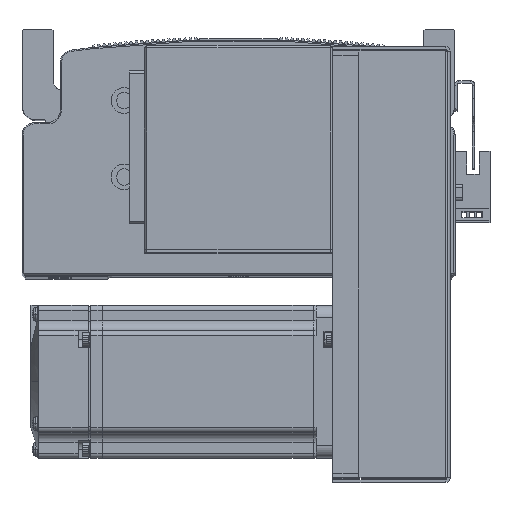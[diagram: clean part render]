
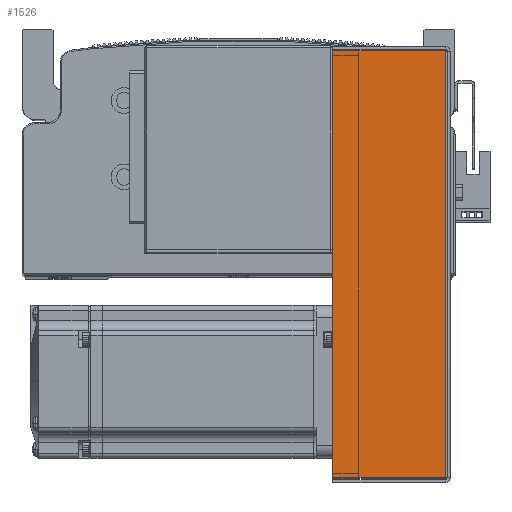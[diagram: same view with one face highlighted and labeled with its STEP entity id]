
A CAD part, top view. The second image highlights one B-rep face of the part: STEP entity #1526.
In plain terms, the highlighted planar face has unit normal (0, 0, 1) as drawn and (0, 0, -1) by its records, which use the part's own axes.
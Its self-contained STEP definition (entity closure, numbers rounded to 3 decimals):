
#1526 = ADVANCED_FACE ( 'NONE', ( #40623 ), #74919, .F. ) ;
#8330 = DIRECTION ( 'NONE',  ( 1., 0., 0. ) ) ;
#8347 = CARTESIAN_POINT ( 'NONE',  ( 84.5, 45., -40.5 ) ) ;
#9985 = CARTESIAN_POINT ( 'NONE',  ( -83.793, 0., -40.5 ) ) ;
#10016 = DIRECTION ( 'NONE',  ( 0., 1., 0. ) ) ;
#10442 = EDGE_LOOP ( 'NONE', ( #35158, #35186, #35248, #35073 ) ) ;
#11850 = CARTESIAN_POINT ( 'NONE',  ( 83.793, 0., -40.5 ) ) ;
#11863 = DIRECTION ( 'NONE',  ( 0., 1., 0. ) ) ;
#11905 = CARTESIAN_POINT ( 'NONE',  ( 0., 0.737, -40.5 ) ) ;
#11916 = DIRECTION ( 'NONE',  ( 1., 0., 0. ) ) ;
#12635 = LINE ( 'NONE', #11905, #12664 ) ;
#12650 = LINE ( 'NONE', #11850, #12670 ) ;
#12664 = VECTOR ( 'NONE', #11916, 1000. ) ;
#12670 = VECTOR ( 'NONE', #11863, 1000. ) ;
#12699 = VECTOR ( 'NONE', #10016, 1000. ) ;
#12722 = LINE ( 'NONE', #9985, #12699 ) ;
#12812 = VECTOR ( 'NONE', #8330, 1000. ) ;
#12823 = LINE ( 'NONE', #8347, #12812 ) ;
#25200 = VERTEX_POINT ( 'NONE', #48824 ) ;
#25218 = VERTEX_POINT ( 'NONE', #48785 ) ;
#25260 = VERTEX_POINT ( 'NONE', #48783 ) ;
#25400 = VERTEX_POINT ( 'NONE', #47761 ) ;
#35073 = ORIENTED_EDGE ( 'NONE', *, *, #59199, .F. ) ;
#35158 = ORIENTED_EDGE ( 'NONE', *, *, #59206, .F. ) ;
#35186 = ORIENTED_EDGE ( 'NONE', *, *, #59237, .T. ) ;
#35248 = ORIENTED_EDGE ( 'NONE', *, *, #59249, .T. ) ;
#38677 = AXIS2_PLACEMENT_3D ( 'NONE', #74931, #74477, #74511 ) ;
#40623 = FACE_OUTER_BOUND ( 'NONE', #10442, .T. ) ;
#47761 = CARTESIAN_POINT ( 'NONE',  ( 83.793, 0.737, -40.5 ) ) ;
#48783 = CARTESIAN_POINT ( 'NONE',  ( 83.793, 45., -40.5 ) ) ;
#48785 = CARTESIAN_POINT ( 'NONE',  ( -83.793, 0.737, -40.5 ) ) ;
#48824 = CARTESIAN_POINT ( 'NONE',  ( -83.793, 45., -40.5 ) ) ;
#59199 = EDGE_CURVE ( 'NONE', #25400, #25260, #12650, .T. ) ;
#59206 = EDGE_CURVE ( 'NONE', #25218, #25400, #12635, .T. ) ;
#59237 = EDGE_CURVE ( 'NONE', #25218, #25200, #12722, .T. ) ;
#59249 = EDGE_CURVE ( 'NONE', #25200, #25260, #12823, .T. ) ;
#74477 = DIRECTION ( 'NONE',  ( 0., 0., 1. ) ) ;
#74511 = DIRECTION ( 'NONE',  ( 0., -1., 0. ) ) ;
#74919 = PLANE ( 'NONE',  #38677 ) ;
#74931 = CARTESIAN_POINT ( 'NONE',  ( 0., 0., -40.5 ) ) ;
